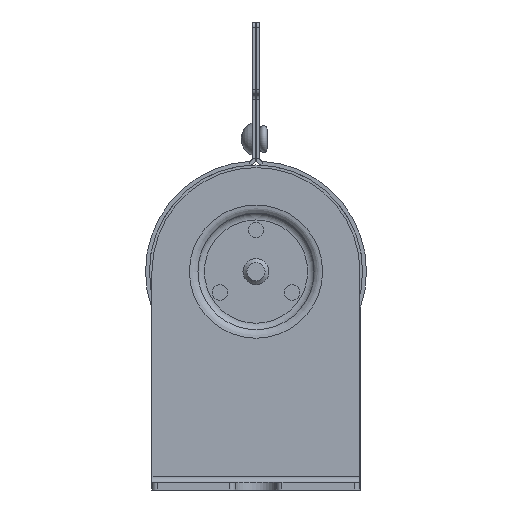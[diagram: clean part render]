
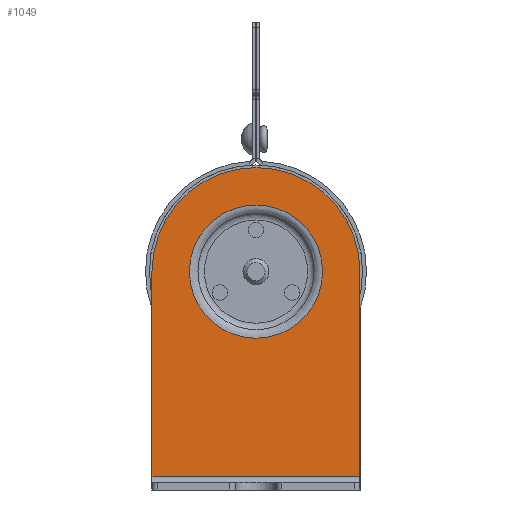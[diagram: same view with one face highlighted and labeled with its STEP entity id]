
A CAD part, left-side view. The second image highlights one B-rep face of the part: STEP entity #1049.
In plain terms, the highlighted planar face has unit normal (-1, 0, 0) as drawn and (1, 0, 0) by its records, which use the part's own axes.
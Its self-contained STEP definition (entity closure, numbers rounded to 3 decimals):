
#1049=ADVANCED_FACE('',(#1876,#1878),#1880,.T.);
#1876=FACE_BOUND('',#1877,.T.);
#1877=EDGE_LOOP('',(#3048,#3049,#3050,#3051));
#1878=FACE_BOUND('',#1879,.T.);
#1879=EDGE_LOOP('',(#3052));
#1880=PLANE('',#1881);
#1881=AXIS2_PLACEMENT_3D('',#1882,#1883,#1884);
#1882=CARTESIAN_POINT('',(1.5,0.,0.));
#1883=DIRECTION('',(1.,0.,0.));
#1884=DIRECTION('',(0.,1.,0.));
#3048=ORIENTED_EDGE('',*,*,#3684,.T.);
#3049=ORIENTED_EDGE('',*,*,#3685,.T.);
#3050=ORIENTED_EDGE('',*,*,#3686,.T.);
#3051=ORIENTED_EDGE('',*,*,#3687,.T.);
#3052=ORIENTED_EDGE('',*,*,#3682,.F.);
#3682=EDGE_CURVE('',#4033,#4033,#4034,.T.);
#3684=EDGE_CURVE('',#4037,#4038,#4039,.T.);
#3685=EDGE_CURVE('',#4038,#4040,#4041,.T.);
#3686=EDGE_CURVE('',#4040,#4042,#4043,.T.);
#3687=EDGE_CURVE('',#4042,#4037,#4044,.T.);
#4033=VERTEX_POINT('',#4649);
#4034=CIRCLE('',#4650,12.806);
#4037=VERTEX_POINT('',#4659);
#4038=VERTEX_POINT('',#4660);
#4039=LINE('',#4661,#4662);
#4040=VERTEX_POINT('',#4664);
#4041=LINE('',#4665,#4666);
#4042=VERTEX_POINT('',#4668);
#4043=CIRCLE('',#4669,20.);
#4044=LINE('',#4673,#4674);
#4649=CARTESIAN_POINT('',(1.5,12.806,11.));
#4650=AXIS2_PLACEMENT_3D('',#4651,#4652,#4653);
#4651=CARTESIAN_POINT('',(1.5,0.,11.));
#4652=DIRECTION('',(1.,0.,0.));
#4653=DIRECTION('',(0.,1.,0.));
#4659=CARTESIAN_POINT('',(1.5,-20.,-28.5));
#4660=CARTESIAN_POINT('',(1.5,20.,-28.5));
#4661=CARTESIAN_POINT('',(1.5,-20.,-28.5));
#4662=VECTOR('',#4663,1.);
#4663=DIRECTION('',(0.,1.,0.));
#4664=CARTESIAN_POINT('',(1.5,20.,11.));
#4665=CARTESIAN_POINT('',(1.5,20.,-28.5));
#4666=VECTOR('',#4667,1.);
#4667=DIRECTION('',(0.,0.,1.));
#4668=CARTESIAN_POINT('',(1.5,-20.,11.));
#4669=AXIS2_PLACEMENT_3D('',#4670,#4671,#4672);
#4670=CARTESIAN_POINT('',(1.5,0.,11.));
#4671=DIRECTION('',(1.,0.,0.));
#4672=DIRECTION('',(0.,1.,0.));
#4673=CARTESIAN_POINT('',(1.5,-20.,11.));
#4674=VECTOR('',#4675,1.);
#4675=DIRECTION('',(0.,0.,-1.));
